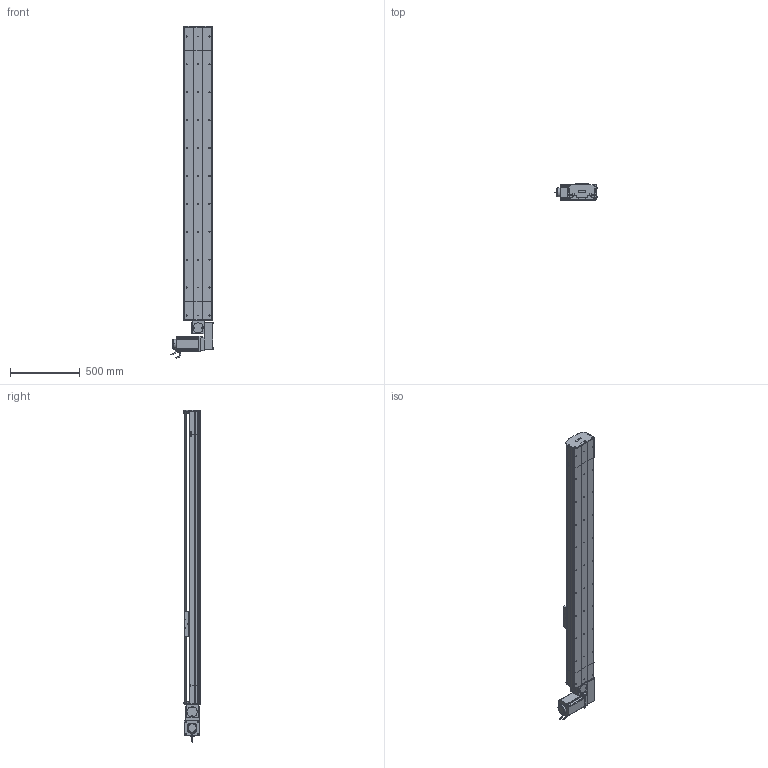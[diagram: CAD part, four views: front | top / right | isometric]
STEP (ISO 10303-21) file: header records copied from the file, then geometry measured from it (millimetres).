
FILE_DESCRIPTION (( 'STEP AP214' ), '1' );
FILE_NAME ('D20 TBH LH S1800.STEP', '2010-07-01T07:40:46', ( 'Conseil Régional Haute-Normandie' ), ( 'Conseil Régional Haute-Normandie' ), 'SwSTEP 2.0', 'SolidWorks 2010', '' );
FILE_SCHEMA (( 'AUTOMOTIVE_DESIGN' ));
Length unit declared in the file: millimetre
Products named in the file (40): Conecteur_Default; Conecteur2_Default; codeur 110BLDC170A-630x; corps 110BLDC170A-630x; avant 110BLDC170A-630x; couvercle head D20_Default; couroie_Default; cache D20_Default; cache arbre D20_Default; Couroie tail D20_Default; Plaque racord D20LH_Default; Renvoi LH D20_Default; vis M5 L5_Default; Moteur motionking 110BLDC170A-640x; poulie tail D20_Default; corpl tail D20_Default; poulie head D20_Default; vis M5 L70_Default; plaque de  bout head D20B LH_Default; tail D20_Default; vis M8 L12_Default; clavette; plaque de  bout tail D20_Default; couvercle tail D20_Default; tete d''axe poulie D20B; vis M5 L12_Default; vis M5 L25_Default; rail tail D20; vis M5 L8 90°_Default; chariot D20B_Default; Chariot D20B; D20 TBH LH S1800; guide D20B; rail head D20; corpl head D20_Default; head LH_Default; Course B L1800_Default; rail + couroie  D20 S1800; couvercle D20 S1800_Default; corp D20 S1800_Default
Assembly tree (71 placements, depth 4):
  D20 TBH LH S1800
    tail D20_Default
      Couroie tail D20_Default
      vis M5 L8 90°_Default  x2
      vis M5 L25_Default  x2
      couvercle tail D20_Default
      corpl tail D20_Default
      rail tail D20
      vis M5 L12_Default  x4
      tete d''axe poulie D20B
      poulie tail D20_Default
      plaque de  bout tail D20_Default
    Course B L1800_Default
      rail + couroie  D20 S1800
      corp D20 S1800_Default
      couvercle D20 S1800_Default
    chariot D20B_Default
      vis M5 L12_Default  x4
      Chariot D20B
      guide D20B  x2
    head LH_Default
      Renvoi LH D20_Default
      Plaque racord D20LH_Default
      vis M5 L12_Default  x10
      vis M5 L70_Default  x4
      poulie head D20_Default
      vis M5 L25_Default  x2
      Moteur motionking 110BLDC170A-640x
        corps 110BLDC170A-630x
        Conecteur2_Default
        codeur 110BLDC170A-630x
        avant 110BLDC170A-630x
        clavette
        Conecteur_Default
      couvercle head D20_Default
      vis M5 L5_Default  x4
      rail head D20
      vis M8 L12_Default  x4
      cache D20_Default  x2
      couroie_Default
      corpl head D20_Default
      cache arbre D20_Default
      plaque de  bout head D20B LH_Default
Bounding box: 304.2 x 115.7 x 2380 mm (x, y, z)
Volume: 18915228.3 mm3; surface area: 4529189.1 mm2
Topology: 95 solids, 95 shells, 2757 faces, 6969 edges, 4497 vertices
Faces by surface type: plane 1622, cylinder 811, bspline 136, cone 99, torus 89
Entity records: 86958 total; most frequent: CARTESIAN_POINT 27883, ORIENTED_EDGE 10594, DIRECTION 10012, EDGE_CURVE 5297, VERTEX_POINT 3483, VECTOR 3440, LINE 3440, AXIS2_PLACEMENT_3D 3286
